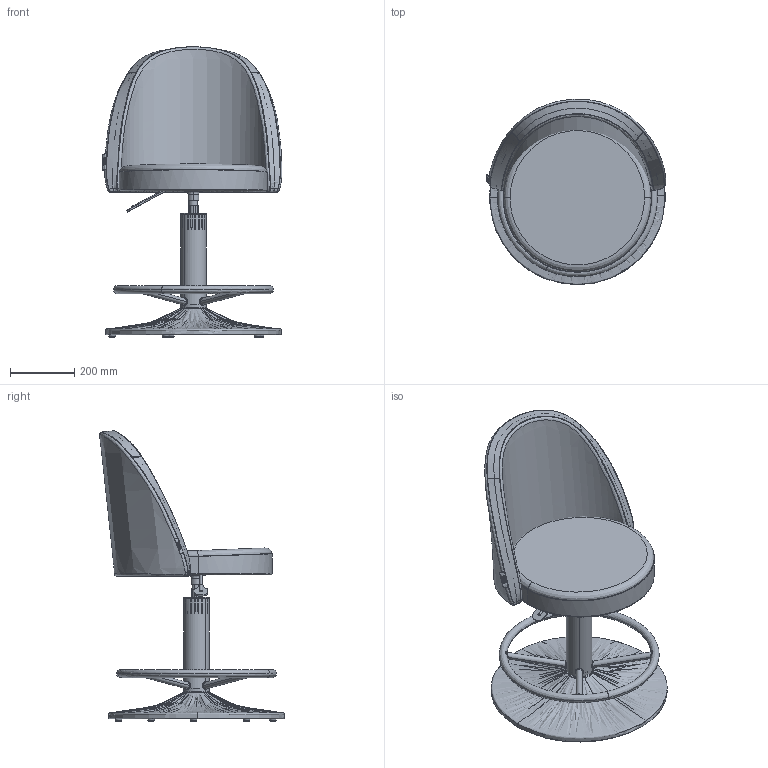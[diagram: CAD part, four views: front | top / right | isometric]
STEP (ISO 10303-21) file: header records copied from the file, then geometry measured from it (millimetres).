
FILE_DESCRIPTION(/* description */ (''),/* implementation_level */ '2;1');
FILE_NAME(/* name */ 'ATENA',/* time_stamp */ '2025-09-17T14:29:05+02:00',/* author */ (''),/* organization */ (''),/* preprocessor_version */ 'ST-DEVELOPER v19.2',/* originating_system */ 'Rhino 8.23',/* authorisation */ '');
FILE_SCHEMA (('CONFIG_CONTROL_DESIGN'));
Products named in the file (1): Document
Bounding box: 562.38 x 578.15 x 907.56 mm (x, y, z)
Volume: 11199386.1 mm3; surface area: 2930046.3 mm2
Topology: 31 solids, 55 shells, 2660 faces, 7533 edges, 4975 vertices
Faces by surface type: plane 2053, bspline 435, cylinder 172
Entity records: 237499 total; most frequent: CARTESIAN_POINT 186416, ORIENTED_EDGE 14761, EDGE_CURVE 7514, B_SPLINE_CURVE_WITH_KNOTS 6455, VERTEX_POINT 4955, DIRECTION 3075, EDGE_LOOP 2771, ADVANCED_FACE 2660
